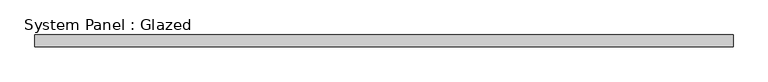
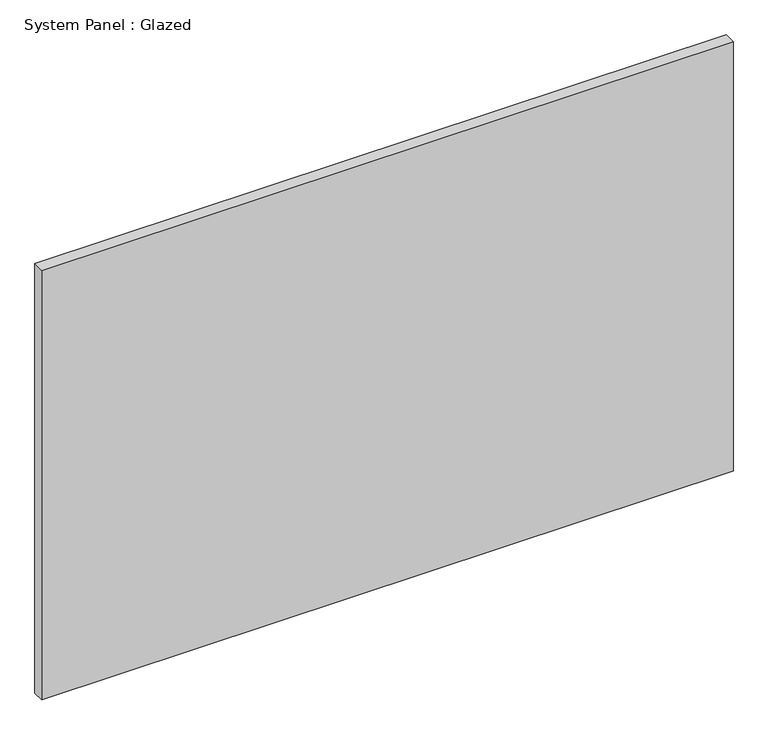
"""IFC4 building model written with IfcOpenShell, lengths in millimetres: plate geometry, System Panel : Glazed."""

from ifc_helpers import new_model, si_unit, origin, origin_with_axes, place, context, project, spatial, polyline, outline, extrude, source, transform, mapped, element, save


def system_panel_glazed_c349e88e(model_context):
    return source(origin(), model_context, "Body", "SweptSolid", [
        extrude(outline(polyline([(763.190625, 19.05), (-763.190625, 19.05), (-763.190625, 44.45), (763.190625, 44.45), (763.190625, 19.05)])), origin_with_axes(), (0.0, 0.0, 1.0), 1003.3),
    ])


if __name__ == "__main__":
    model = new_model("IFC4")
    model_context = context("Model", 3, world=origin())
    ifc_project = project(units=[si_unit("LENGTHUNIT", "METRE", prefix="MILLI")], contexts=[model_context])
    site = spatial("IfcSite", under=ifc_project)
    building = spatial("IfcBuilding", under=site)
    placement = place(None, origin())
    system_panel_glazed_shape = system_panel_glazed_c349e88e(model_context)
    element("IfcPlate", 1, ObjectType="System Panel : Glazed", at=placement, inside=building, context=model_context, shape_type="MappedRepresentation", body=[
        mapped(system_panel_glazed_shape, transform((0.0, 0.0, 0.0), x_axis=(1.0, 0.0, 0.0), y_axis=(0.0, 1.0, 0.0), z_axis=(0.0, 0.0, 1.0))),
    ])
    save(model, "model.ifc")
